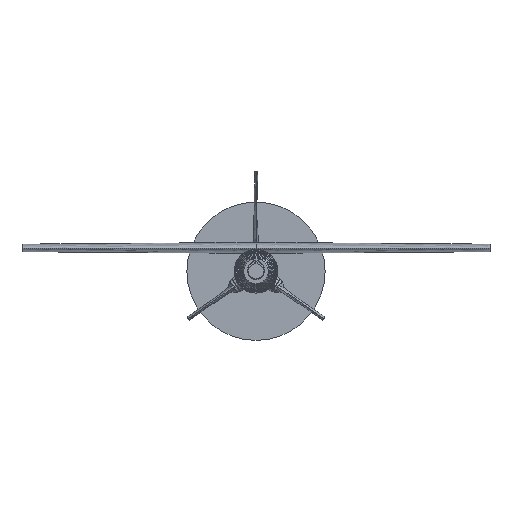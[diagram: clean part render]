
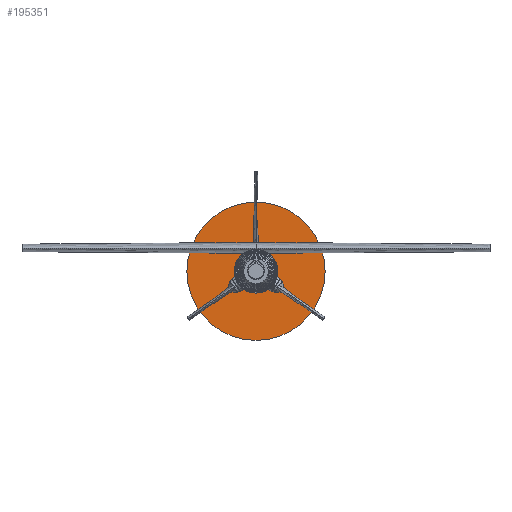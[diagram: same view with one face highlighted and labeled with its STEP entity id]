
A CAD part, left-side view. The second image highlights one B-rep face of the part: STEP entity #195351.
In plain terms, the highlighted planar face has unit normal (-1, 0, 0).
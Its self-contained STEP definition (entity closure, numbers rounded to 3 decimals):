
#195273 = CYLINDRICAL_SURFACE('',#195274,63.5);
#195274 = AXIS2_PLACEMENT_3D('',#195275,#195276,#195277);
#195275 = CARTESIAN_POINT('',(450.85,0.,0.));
#195276 = DIRECTION('',(1.,0.,0.));
#195277 = DIRECTION('',(-0.,0.,1.));
#195298 = VERTEX_POINT('',#195299);
#195299 = CARTESIAN_POINT('',(450.85,0.,63.5));
#195320 = EDGE_CURVE('',#195298,#195298,#195321,.T.);
#195321 = SURFACE_CURVE('',#195322,(#195327,#195334),.PCURVE_S1.);
#195322 = CIRCLE('',#195323,63.5);
#195323 = AXIS2_PLACEMENT_3D('',#195324,#195325,#195326);
#195324 = CARTESIAN_POINT('',(450.85,0.,0.));
#195325 = DIRECTION('',(1.,0.,0.));
#195326 = DIRECTION('',(-0.,0.,1.));
#195327 = PCURVE('',#195273,#195328);
#195328 = DEFINITIONAL_REPRESENTATION('',(#195329),#195333);
#195329 = LINE('',#195330,#195331);
#195330 = CARTESIAN_POINT('',(0.,0.));
#195331 = VECTOR('',#195332,1.);
#195332 = DIRECTION('',(1.,0.));
#195333 = ( GEOMETRIC_REPRESENTATION_CONTEXT(2) 
PARAMETRIC_REPRESENTATION_CONTEXT() REPRESENTATION_CONTEXT('2D SPACE',''
  ) );
#195334 = PCURVE('',#195335,#195340);
#195335 = PLANE('',#195336);
#195336 = AXIS2_PLACEMENT_3D('',#195337,#195338,#195339);
#195337 = CARTESIAN_POINT('',(450.85,0.,0.));
#195338 = DIRECTION('',(1.,0.,0.));
#195339 = DIRECTION('',(-0.,0.,1.));
#195340 = DEFINITIONAL_REPRESENTATION('',(#195341),#195345);
#195341 = CIRCLE('',#195342,63.5);
#195342 = AXIS2_PLACEMENT_2D('',#195343,#195344);
#195343 = CARTESIAN_POINT('',(0.,0.));
#195344 = DIRECTION('',(1.,0.));
#195345 = ( GEOMETRIC_REPRESENTATION_CONTEXT(2) 
PARAMETRIC_REPRESENTATION_CONTEXT() REPRESENTATION_CONTEXT('2D SPACE',''
  ) );
#195351 = ADVANCED_FACE('',(#195352),#195335,.F.);
#195352 = FACE_BOUND('',#195353,.T.);
#195353 = EDGE_LOOP('',(#195354));
#195354 = ORIENTED_EDGE('',*,*,#195320,.F.);
